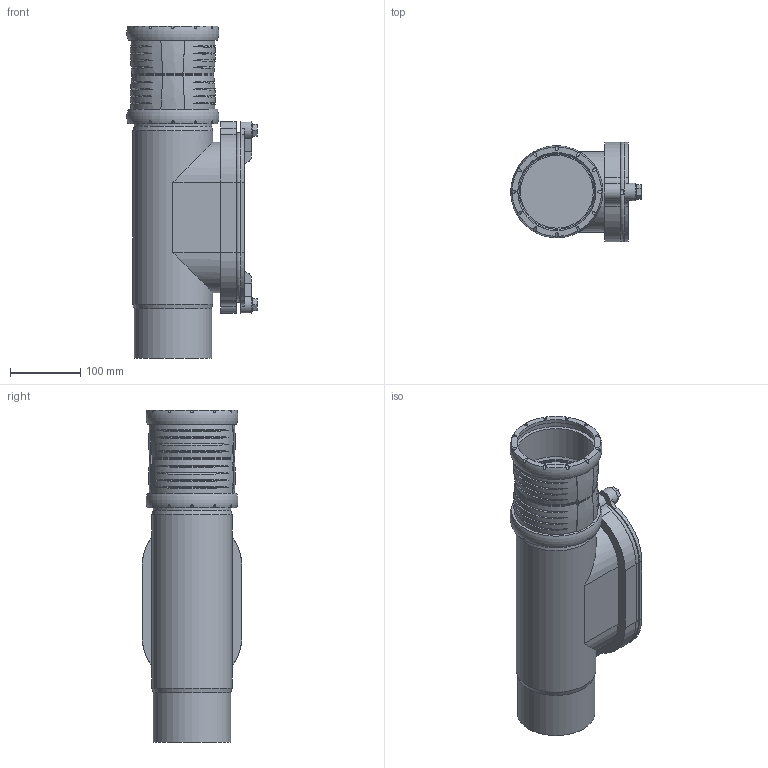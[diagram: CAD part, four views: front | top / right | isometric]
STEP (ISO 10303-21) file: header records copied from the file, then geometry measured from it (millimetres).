
FILE_DESCRIPTION(/* description */ (''),/* implementation_level */ '2;1');
FILE_NAME(/* name */ 'H:\Geberit-Teile\Export\Rein Stück PP_Oval\stp\393503.stp',/* time_stamp */ '2017-02-14T12:54:59+01:00',/* author */ ('seihe2'),/* organization */ (''),/* preprocessor_version */ 'ST-DEVELOPER v15.2',/* originating_system */ 'Autodesk Inventor 2014',/* authorisation */ '');
FILE_SCHEMA (('AUTOMOTIVE_DESIGN { 1 0 10303 214 3 1 1 }'));
Length unit declared in the file: millimetre
Products named in the file (1): 393503
Bounding box: 185.43 x 142 x 472.5 mm (x, y, z)
Volume: 5223977.1 mm3; surface area: 396699.4 mm2
Topology: 3 solids, 5 shells, 230 faces, 565 edges, 380 vertices
Faces by surface type: cylinder 91, plane 75, bspline 56, torus 4, cone 4
Full cylindrical faces by diameter (mm): 10 x4, 20 x2, 103.6 x2, 110.4 x2, 111 x2, 111.3 x2, 114 x1, 121.5 x2
Entity records: 11612 total; most frequent: CARTESIAN_POINT 6320, ORIENTED_EDGE 1064, DIRECTION 939, EDGE_CURVE 532, AXIS2_PLACEMENT_3D 374, VERTEX_POINT 371, EDGE_LOOP 293, STYLED_ITEM 233
